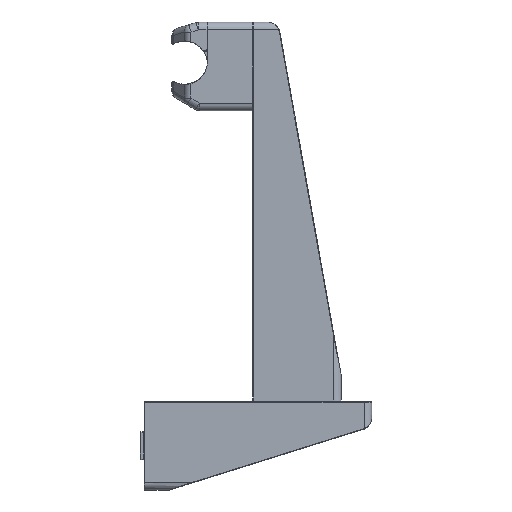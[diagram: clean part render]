
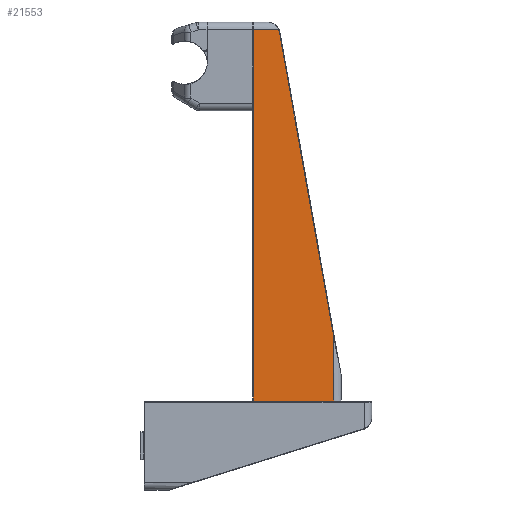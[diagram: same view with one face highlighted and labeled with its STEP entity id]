
A CAD part, front view. The second image highlights one B-rep face of the part: STEP entity #21553.
In plain terms, the highlighted planar face has unit normal (0, -1, 0).
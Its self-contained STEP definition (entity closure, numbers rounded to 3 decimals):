
#691=PLANE('',#23384);
#2545=LINE('',#35979,#4790);
#2546=LINE('',#35983,#4791);
#2551=LINE('',#36015,#4796);
#2552=LINE('',#36017,#4797);
#2553=LINE('',#36020,#4798);
#4790=VECTOR('',#27941,10.);
#4791=VECTOR('',#27946,10.);
#4796=VECTOR('',#27991,10.);
#4797=VECTOR('',#27992,10.);
#4798=VECTOR('',#27995,10.);
#6810=FACE_OUTER_BOUND('',#8161,.T.);
#8161=EDGE_LOOP('',(#18056,#18057,#18058,#18059,#18060,#18061));
#9129=CIRCLE('',#23385,4.8);
#10471=VERTEX_POINT('',#35973);
#10472=VERTEX_POINT('',#35977);
#10473=VERTEX_POINT('',#35981);
#10480=VERTEX_POINT('',#36014);
#10481=VERTEX_POINT('',#36016);
#10482=VERTEX_POINT('',#36018);
#13077=EDGE_CURVE('',#10472,#10471,#2545,.T.);
#13079=EDGE_CURVE('',#10471,#10473,#2546,.T.);
#13094=EDGE_CURVE('',#10480,#10472,#2551,.T.);
#13095=EDGE_CURVE('',#10481,#10480,#2552,.T.);
#13096=EDGE_CURVE('',#10482,#10481,#9129,.T.);
#13097=EDGE_CURVE('',#10473,#10482,#2553,.T.);
#18056=ORIENTED_EDGE('',*,*,#13079,.F.);
#18057=ORIENTED_EDGE('',*,*,#13077,.F.);
#18058=ORIENTED_EDGE('',*,*,#13094,.F.);
#18059=ORIENTED_EDGE('',*,*,#13095,.F.);
#18060=ORIENTED_EDGE('',*,*,#13096,.F.);
#18061=ORIENTED_EDGE('',*,*,#13097,.F.);
#21553=ADVANCED_FACE('',(#6810),#691,.T.);
#23384=AXIS2_PLACEMENT_3D('',#36013,#27989,#27990);
#23385=AXIS2_PLACEMENT_3D('',#36019,#27993,#27994);
#27941=DIRECTION('',(-1.,0.,0.));
#27946=DIRECTION('',(0.,0.,1.));
#27989=DIRECTION('center_axis',(0.,-1.,0.));
#27990=DIRECTION('ref_axis',(0.,0.,-1.));
#27991=DIRECTION('',(0.,0.,-1.));
#27992=DIRECTION('',(0.176,0.,-0.984));
#27993=DIRECTION('center_axis',(0.,1.,0.));
#27994=DIRECTION('ref_axis',(0.957,0.,0.29));
#27995=DIRECTION('',(1.,0.,0.));
#35973=CARTESIAN_POINT('',(0.2,0.,0.2));
#35977=CARTESIAN_POINT('',(32.,0.,0.2));
#35979=CARTESIAN_POINT('',(26.25,0.,0.2));
#35981=CARTESIAN_POINT('',(0.2,0.,147.));
#35983=CARTESIAN_POINT('',(0.2,0.,0.));
#36013=CARTESIAN_POINT('Origin',(35.,0.,0.));
#36014=CARTESIAN_POINT('',(32.,0.,25.662));
#36015=CARTESIAN_POINT('',(32.,0.,0.));
#36016=CARTESIAN_POINT('',(10.539,0.,145.844));
#36017=CARTESIAN_POINT('',(23.168,0.,75.119));
#36018=CARTESIAN_POINT('',(10.177,0.,147.));
#36019=CARTESIAN_POINT('Origin',(5.814,0.,145.));
#36020=CARTESIAN_POINT('',(26.25,0.,147.));
